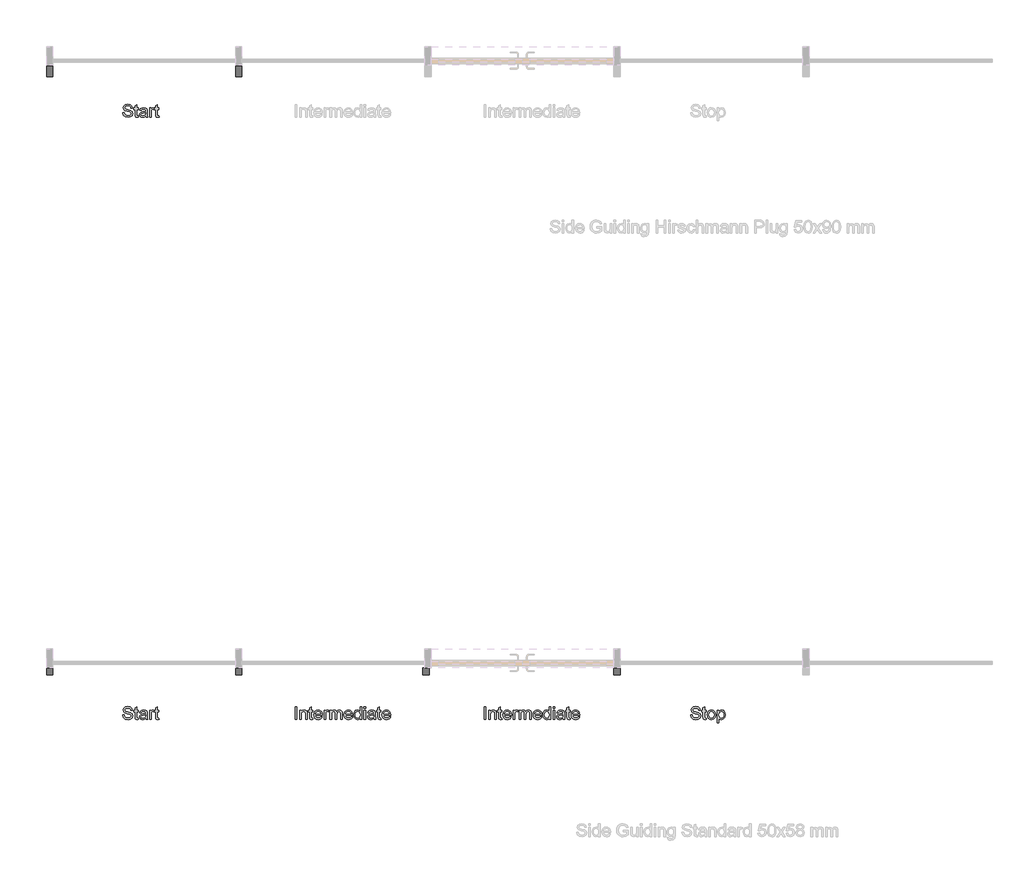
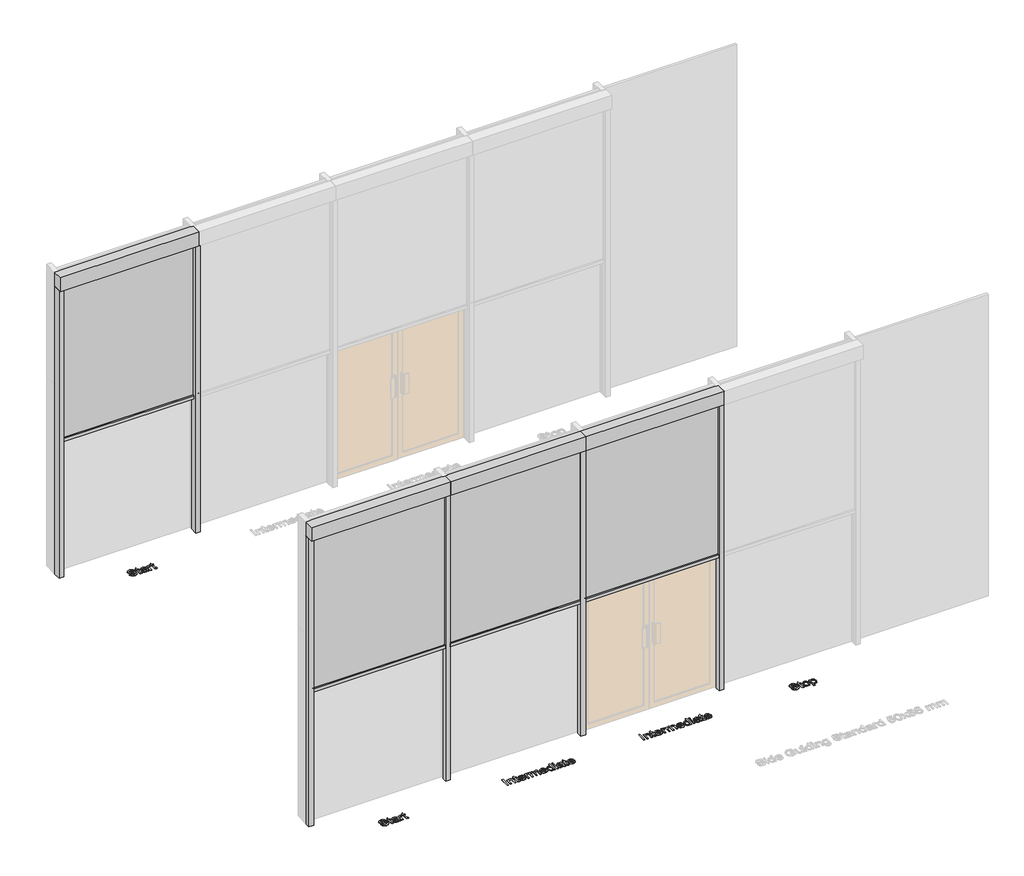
# One storey, part 6 of 8: 9 proxies.
"""IFC4 building model written with IfcOpenShell, lengths in millimetres."""

from ifc_helpers import new_model, si_unit, origin, origin_with_axes, place, context, project, spatial, polyline, outline, extrude, transform, mapped, element, save
from components import generic_models_8495b7db, generic_models_541ef5a7, generic_models_317902a9, generic_models_2005cc21

model = new_model("IFC4")

# Units and contexts
model_context = context("Model", 3, world=origin())
ifc_project = project(units=[si_unit("LENGTHUNIT", "METRE", prefix="MILLI")], contexts=[model_context])

# Site, building, storey
site = spatial("IfcSite", under=ifc_project)
building = spatial("IfcBuilding", under=site)
storey = spatial("IfcBuildingStorey", under=building, Name="Fixscreen Mini CW50 Overview Top", Elevation=0.0)

# Proxies
placement = place(None, origin())
generic_models_shape = generic_models_8495b7db(model_context)
element("IfcBuildingElementProxy", 1, Name="Renson_Fixscreen_Minimal_CW50_Middle : For curtain wall - Middle element - Access downwards - Fabric close to the window", ObjectType="Renson_Fixscreen_Minimal_CW50_Middle : For curtain wall - Middle element - Access downwards - Fabric close to the window", at=placement, inside=storey, context=model_context, shape_type="MappedRepresentation", body=[
    mapped(generic_models_shape, transform((-5413.6521319, 1107.6014385, 0.0), x_axis=(1.0, 0.0, 0.0), y_axis=(0.0, 1.0, 0.0), z_axis=(0.0, 0.0, 1.0))),
])
generic_models_2_shape = generic_models_541ef5a7(model_context)
element("IfcBuildingElementProxy", 2, Name="Renson_Fixscreen_Minimal_CW50_Middle : For curtain wall - Middle element - Access downwards - Fabric close to the window", ObjectType="Renson_Fixscreen_Minimal_CW50_Middle : For curtain wall - Middle element - Access downwards - Fabric close to the window", at=placement, inside=storey, context=model_context, shape_type="MappedRepresentation", body=[
    mapped(generic_models_2_shape, transform((-6928.6521319, 1107.6014385, 0.0), x_axis=(1.0, 0.0, 0.0), y_axis=(0.0, 1.0, 0.0), z_axis=(0.0, 0.0, 1.0))),
])
generic_models_3_shape = generic_models_317902a9(model_context)
element("IfcBuildingElementProxy", 3, Name="Renson_Fixscreen_Minimal_CW50_Start : For curtain wall - Start element - Access downwards - Fabric close to the window", ObjectType="Renson_Fixscreen_Minimal_CW50_Start : For curtain wall - Start element - Access downwards - Fabric close to the window", at=placement, inside=storey, context=model_context, shape_type="MappedRepresentation", body=[
    mapped(generic_models_3_shape, transform((-8413.6521319, 5887.7476142, 0.0), x_axis=(1.0000000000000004, 0.0, 0.0), y_axis=(0.0, 1.0000000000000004, 0.0), z_axis=(0.0, 0.0, 1.0))),
])
generic_models_4_shape = generic_models_2005cc21(model_context)
element("IfcBuildingElementProxy", 4, Name="Renson_Fixscreen_Minimal_CW50_Start : For curtain wall - Start element - Access downwards - Fabric close to the window", ObjectType="Renson_Fixscreen_Minimal_CW50_Start : For curtain wall - Start element - Access downwards - Fabric close to the window", at=placement, inside=storey, context=model_context, shape_type="MappedRepresentation", body=[
    mapped(generic_models_4_shape, transform((-8413.6521319, 1107.6014385, 0.0), x_axis=(1.0000000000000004, 0.0, 0.0), y_axis=(0.0, 1.0000000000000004, 0.0), z_axis=(0.0, 0.0, 1.0))),
])
element("IfcBuildingElementProxy", 5, Name="100mm Arial", ObjectType="100mm Arial", at=placement, inside=storey, context=model_context, shape_type="SweptSolid", body=[
    extrude(outline(polyline([(-8828.8311252, 38.4810457), (-8816.2740864, 38.4810457), (-8812.2273845, 25.9117442), (-8802.3436216, 17.9654931), (-8787.2849852, 14.936598), (-8774.1638607, 17.2297291), (-8765.6903121, 23.532774), (-8762.9066717, 31.9572716), (-8764.9913363, 39.7931581), (-8773.5261986, 45.4953291), (-8791.8099338, 50.2900577), (-8811.4916205, 56.482738), (-8822.1724611, 65.8269407), (-8825.6918655, 78.310403), (-8821.3385952, 92.5229108), (-8808.6221409, 102.5538265), (-8790.007312, 105.9751291), (-8770.1416842, 102.394411), (-8756.8979324, 91.8729859), (-8751.9192628, 76.152162), (-8764.4763015, 76.152162), (-8766.7816954, 83.644692), (-8771.5886868, 89.0525573), (-8789.5168027, 93.4180903), (-8807.4939695, 89.1016082), (-8813.1348267, 78.678285), (-8809.1371757, 69.9717445), (-8788.6338859, 62.9574611), (-8766.4138134, 56.6544163), (-8754.2614448, 46.4763477), (-8750.3496329, 32.2761027), (-8754.850056, 17.2542546), (-8767.7995022, 6.2913711), (-8786.7944759, 2.3795592), (-8809.2230149, 6.5979394), (-8823.4109971, 19.302131), (-8828.8311252, 38.4810457)])), origin_with_axes(), (0.0, 0.0, 1.0), 5.0),
    extrude(outline(polyline([(-8706.3999972, 14.4215632), (-8704.8303674, 3.5813071), (-8714.223621, 2.3795592), (-8724.745046, 4.4642239), (-8729.9934958, 9.9334029), (-8731.5140748, 24.1826988), (-8731.5140748, 65.1647531), (-8740.9318538, 65.1647531), (-8740.9318538, 77.7217918), (-8731.5140748, 77.7217918), (-8731.5140748, 95.6499077), (-8718.957036, 103.0320731), (-8718.957036, 77.7217918), (-8706.3999972, 77.7217918), (-8706.3999972, 65.1647531), (-8718.957036, 65.1647531), (-8718.957036, 24.5505808), (-8718.2948484, 18.0758577), (-8716.1488701, 15.7827266), (-8711.8691762, 14.936598), (-8706.3999972, 14.4215632)])), origin_with_axes(), (0.0, 0.0, 1.0), 5.0),
    extrude(outline(polyline([(-8646.7540631, 13.3669682), (-8658.9309571, 4.8566313), (-8672.3831754, 2.3795592), (-8682.8770093, 3.8694813), (-8690.6178596, 8.3392476), (-8695.3911285, 15.1266704), (-8696.9822181, 23.5695622), (-8694.5787224, 33.502376), (-8688.2634149, 40.7128631), (-8679.4710352, 44.8331415), (-8668.6062536, 46.7216024), (-8646.8276395, 51.0380845), (-8646.7540631, 53.8339876), (-8650.2121538, 63.1046139), (-8664.0935678, 66.7343829), (-8676.7977593, 64.3186245), (-8682.8555495, 55.746974), (-8695.4125883, 57.3166039), (-8689.9801975, 69.579337), (-8679.0418395, 76.7652987), (-8662.474887, 79.2914217), (-8647.2568351, 77.0596043), (-8638.6606592, 71.4555352), (-8634.810161, 62.9329356), (-8634.1970243, 51.9455267), (-8634.1970243, 36.3228047), (-8633.5593622, 14.5074023), (-8631.0577646, 3.9491891), (-8643.6148034, 3.9491891), (-8646.7540631, 13.3669682)]), holes=[polyline([(-8646.7540631, 38.4810457), (-8667.0120983, 34.6305475), (-8677.8155662, 32.5949338), (-8682.7083967, 29.2839958), (-8684.4251794, 24.4524789), (-8680.6850458, 17.6589248), (-8669.7098996, 14.936598), (-8657.005708, 17.9409676), (-8648.8142022, 25.2127684), (-8646.8276395, 34.9248531), (-8646.7540631, 38.4810457)])]), origin_with_axes(), (0.0, 0.0, 1.0), 5.0),
    extrude(outline(polyline([(-8616.931096, 3.9491891), (-8616.931096, 77.7217918), (-8605.9436871, 77.7217918), (-8605.9436871, 66.8079593), (-8598.1445888, 76.8634005), (-8590.2964395, 79.2914217), (-8577.6903498, 75.416398), (-8581.8842046, 64.159209), (-8590.7133725, 66.7343829), (-8597.813495, 64.2573108), (-8602.3384435, 57.3901802), (-8604.3740572, 42.7239514), (-8604.3740572, 3.9491891), (-8616.931096, 3.9491891)])), origin_with_axes(), (0.0, 0.0, 1.0), 5.0),
    extrude(outline(polyline([(-8543.1584932, 14.4215632), (-8541.5888634, 3.5813071), (-8550.982117, 2.3795592), (-8561.503542, 4.4642239), (-8566.7519918, 9.9334029), (-8568.2725708, 24.1826988), (-8568.2725708, 65.1647531), (-8577.6903498, 65.1647531), (-8577.6903498, 77.7217918), (-8568.2725708, 77.7217918), (-8568.2725708, 95.6499077), (-8555.715532, 103.0320731), (-8555.715532, 77.7217918), (-8543.1584932, 77.7217918), (-8543.1584932, 65.1647531), (-8555.715532, 65.1647531), (-8555.715532, 24.5505808), (-8555.0533444, 18.0758577), (-8552.9073661, 15.7827266), (-8548.6276722, 14.936598), (-8543.1584932, 14.4215632)])), origin_with_axes(), (0.0, 0.0, 1.0), 5.0),
])
element("IfcBuildingElementProxy", 6, Name="100mm Arial", ObjectType="100mm Arial", at=placement, inside=storey, context=model_context, shape_type="SweptSolid", body=[
    extrude(outline(polyline([(-5961.9211574, 3.9491891), (-5961.9211574, 104.4054992), (-5949.3641186, 104.4054992), (-5949.3641186, 3.9491891), (-5961.9211574, 3.9491891)])), origin_with_axes(), (0.0, 0.0, 1.0), 5.0),
    extrude(outline(polyline([(-5925.8196709, 3.9491891), (-5925.8196709, 77.7217918), (-5913.2626321, 77.7217918), (-5913.2626321, 67.421096), (-5903.6609121, 76.3238403), (-5890.5520503, 79.2914217), (-5878.6939873, 76.9001887), (-5870.6005834, 70.6216693), (-5866.8359243, 61.3878313), (-5866.1737367, 49.2477254), (-5866.1737367, 3.9491891), (-5878.7307755, 3.9491891), (-5878.7307755, 47.5554682), (-5880.177778, 58.6655045), (-5885.2913378, 64.5393537), (-5893.9120392, 66.7343829), (-5907.5359357, 61.8047642), (-5911.830958, 54.6617221), (-5913.2626321, 43.0918334), (-5913.2626321, 3.9491891), (-5925.8196709, 3.9491891)])), origin_with_axes(), (0.0, 0.0, 1.0), 5.0),
    extrude(outline(polyline([(-5822.2241011, 14.4215632), (-5820.6544712, 3.5813071), (-5830.0477248, 2.3795592), (-5840.5691499, 4.4642239), (-5845.8175997, 9.9334029), (-5847.3381786, 24.1826988), (-5847.3381786, 65.1647531), (-5856.7559577, 65.1647531), (-5856.7559577, 77.7217918), (-5847.3381786, 77.7217918), (-5847.3381786, 95.6499077), (-5834.7811398, 103.0320731), (-5834.7811398, 77.7217918), (-5822.2241011, 77.7217918), (-5822.2241011, 65.1647531), (-5834.7811398, 65.1647531), (-5834.7811398, 24.5505808), (-5834.1189522, 18.0758577), (-5831.9729739, 15.7827266), (-5827.69328, 14.936598), (-5822.2241011, 14.4215632)])), origin_with_axes(), (0.0, 0.0, 1.0), 5.0),
    extrude(outline(polyline([(-5758.0164302, 25.9240069), (-5745.7046461, 24.3543771), (-5750.1406898, 15.0776194), (-5757.2193525, 8.1430438), (-5766.7812187, 3.8204304), (-5778.6668728, 2.3795592), (-5793.4005467, 4.8658284), (-5804.7374435, 12.3246358), (-5811.9663248, 24.2716036), (-5814.3759518, 40.2223538), (-5811.9417993, 56.7095986), (-5804.6393417, 69.0397768), (-5793.455729, 76.7285105), (-5779.3781113, 79.2914217), (-5765.7388864, 76.7346418), (-5754.8403823, 69.0643022), (-5747.6942745, 56.7586495), (-5745.3122386, 40.2959302), (-5745.385815, 36.9114159), (-5801.8189131, 36.9114159), (-5799.6453436, 27.5120309), (-5794.5961632, 20.6019807), (-5787.309034, 16.3529437), (-5778.4216182, 14.936598), (-5766.1098341, 17.5608229), (-5758.0164302, 25.9240069)]), holes=[polyline([(-5801.8189131, 49.4684546), (-5757.8692774, 49.4684546), (-5762.896998, 60.848271), (-5770.2178497, 65.2628549), (-5779.4271623, 66.7343829), (-5794.8904688, 62.0377561), (-5799.7557082, 56.5471173), (-5801.8189131, 49.4684546)])]), origin_with_axes(), (0.0, 0.0, 1.0), 5.0),
    extrude(outline(polyline([(-5732.7551998, 3.9491891), (-5732.7551998, 77.7217918), (-5721.7677909, 77.7217918), (-5721.7677909, 66.8079593), (-5713.9686926, 76.8634005), (-5706.1205434, 79.2914217), (-5693.5144537, 75.416398), (-5697.7083084, 64.159209), (-5706.5374763, 66.7343829), (-5713.6375988, 64.2573108), (-5718.1625474, 57.3901802), (-5720.1981611, 42.7239514), (-5720.1981611, 3.9491891), (-5732.7551998, 3.9491891)])), origin_with_axes(), (0.0, 0.0, 1.0), 5.0),
    extrude(outline(polyline([(-5685.6663044, 3.9491891), (-5685.6663044, 77.7217918), (-5673.1092657, 77.7217918), (-5673.1092657, 65.581686), (-5664.4763015, 75.5267626), (-5652.1890429, 79.2914217), (-5639.6074786, 75.4531862), (-5632.6912971, 64.6987692), (-5622.8933733, 75.6432586), (-5610.5202756, 79.2914217), (-5601.0810367, 77.7739085), (-5594.1004758, 73.2213688), (-5589.7870594, 65.5111753), (-5588.349254, 54.5207007), (-5588.349254, 3.9491891), (-5600.9062928, 3.9491891), (-5600.9062928, 49.1250981), (-5602.0712524, 59.609735), (-5606.2896326, 64.7723456), (-5613.4633315, 66.7343829), (-5625.8119038, 61.7066623), (-5629.4999208, 55.1644942), (-5630.7292598, 45.5934309), (-5630.7292598, 3.9491891), (-5643.2862986, 3.9491891), (-5643.2862986, 50.5230497), (-5646.1925664, 62.687681), (-5655.72071, 66.7343829), (-5665.0158618, 64.0365816), (-5671.1962793, 56.1393815), (-5673.1092657, 41.1543215), (-5673.1092657, 3.9491891), (-5685.6663044, 3.9491891)])), origin_with_axes(), (0.0, 0.0, 1.0), 5.0),
    extrude(outline(polyline([(-5517.8630637, 25.9240069), (-5505.5512796, 24.3543771), (-5509.9873233, 15.0776194), (-5517.0659861, 8.1430438), (-5526.6278522, 3.8204304), (-5538.5135064, 2.3795592), (-5553.2471803, 4.8658284), (-5564.5840771, 12.3246358), (-5571.8129583, 24.2716036), (-5574.2225854, 40.2223538), (-5571.7884328, 56.7095986), (-5564.4859752, 69.0397768), (-5553.3023626, 76.7285105), (-5539.2247449, 79.2914217), (-5525.5855199, 76.7346418), (-5514.6870158, 69.0643022), (-5507.5409081, 56.7586495), (-5505.1588721, 40.2959302), (-5505.2324485, 36.9114159), (-5561.6655466, 36.9114159), (-5559.4919771, 27.5120309), (-5554.4427968, 20.6019807), (-5547.1556676, 16.3529437), (-5538.2682517, 14.936598), (-5525.9564676, 17.5608229), (-5517.8630637, 25.9240069)]), holes=[polyline([(-5561.6655466, 49.4684546), (-5517.7159109, 49.4684546), (-5522.7436315, 60.848271), (-5530.0644832, 65.2628549), (-5539.2737958, 66.7343829), (-5554.7371024, 62.0377561), (-5559.6023417, 56.5471173), (-5561.6655466, 49.4684546)])]), origin_with_axes(), (0.0, 0.0, 1.0), 5.0),
    extrude(outline(polyline([(-5447.0825678, 3.9491891), (-5447.0825678, 15.7949893), (-5455.3905696, 5.7334168), (-5466.8746192, 2.3795592), (-5482.4237648, 7.2356016), (-5493.4111738, 20.7859217), (-5497.3107229, 40.7619141), (-5493.7177421, 60.7501691), (-5482.9510624, 74.5089558), (-5466.9236701, 79.2914217), (-5455.34765, 75.8701191), (-5447.0825678, 66.9796376), (-5447.0825678, 104.4054992), (-5434.5255291, 104.4054992), (-5434.5255291, 3.9491891), (-5447.0825678, 3.9491891)]), holes=[polyline([(-5484.7536841, 40.810965), (-5483.3373385, 29.4526084), (-5479.0883014, 21.3745329), (-5472.9140153, 16.5460817), (-5465.7219223, 14.936598), (-5458.5328949, 16.4725053), (-5452.5149586, 21.0802273), (-5448.4406655, 28.8456031), (-5447.0825678, 39.8544718), (-5448.465191, 51.8903444), (-5452.6130605, 60.2351343), (-5458.784281, 65.1095708), (-5466.2369571, 66.7343829), (-5473.5026265, 65.1739501), (-5479.4561834, 60.4926517), (-5483.429309, 52.4513645), (-5484.7536841, 40.810965)])]), origin_with_axes(), (0.0, 0.0, 1.0), 5.0),
    extrude(outline(polyline([(-5415.6899709, 91.8484605), (-5415.6899709, 104.4054992), (-5403.1329321, 104.4054992), (-5403.1329321, 91.8484605), (-5415.6899709, 91.8484605)])), origin_with_axes(), (0.0, 0.0, 1.0), 5.0),
    extrude(outline(polyline([(-5415.6899709, 3.9491891), (-5415.6899709, 77.7217918), (-5403.1329321, 77.7217918), (-5403.1329321, 3.9491891), (-5415.6899709, 3.9491891)])), origin_with_axes(), (0.0, 0.0, 1.0), 5.0),
    extrude(outline(polyline([(-5337.2084786, 13.3669682), (-5349.3853727, 4.8566313), (-5362.8375909, 2.3795592), (-5373.3314249, 3.8694813), (-5381.0722752, 8.3392476), (-5385.8455441, 15.1266704), (-5387.4366337, 23.5695622), (-5385.033138, 33.502376), (-5378.7178304, 40.7128631), (-5369.9254507, 44.8331415), (-5359.0606691, 46.7216024), (-5337.282055, 51.0380845), (-5337.2084786, 53.8339876), (-5340.6665694, 63.1046139), (-5354.5479833, 66.7343829), (-5367.2521749, 64.3186245), (-5373.3099651, 55.746974), (-5385.8670038, 57.3166039), (-5380.434613, 69.579337), (-5369.4962551, 76.7652987), (-5352.9293025, 79.2914217), (-5337.7112507, 77.0596043), (-5329.1150747, 71.4555352), (-5325.2645765, 62.9329356), (-5324.6514398, 51.9455267), (-5324.6514398, 36.3228047), (-5324.0137777, 14.5074023), (-5321.5121802, 3.9491891), (-5334.0692189, 3.9491891), (-5337.2084786, 13.3669682)]), holes=[polyline([(-5337.2084786, 38.4810457), (-5357.4665138, 34.6305475), (-5368.2699817, 32.5949338), (-5373.1628123, 29.2839958), (-5374.8795949, 24.4524789), (-5371.1394613, 17.6589248), (-5360.1643151, 14.936598), (-5347.4601235, 17.9409676), (-5339.2686178, 25.2127684), (-5337.282055, 34.9248531), (-5337.2084786, 38.4810457)])]), origin_with_axes(), (0.0, 0.0, 1.0), 5.0),
    extrude(outline(polyline([(-5280.7018042, 14.4215632), (-5279.1321743, 3.5813071), (-5288.5254279, 2.3795592), (-5299.046853, 4.4642239), (-5304.2953028, 9.9334029), (-5305.8158817, 24.1826988), (-5305.8158817, 65.1647531), (-5315.2336608, 65.1647531), (-5315.2336608, 77.7217918), (-5305.8158817, 77.7217918), (-5305.8158817, 95.6499077), (-5293.2588429, 103.0320731), (-5293.2588429, 77.7217918), (-5280.7018042, 77.7217918), (-5280.7018042, 65.1647531), (-5293.2588429, 65.1647531), (-5293.2588429, 24.5505808), (-5292.5966553, 18.0758577), (-5290.450677, 15.7827266), (-5286.1709831, 14.936598), (-5280.7018042, 14.4215632)])), origin_with_axes(), (0.0, 0.0, 1.0), 5.0),
    extrude(outline(polyline([(-5216.4941333, 25.9240069), (-5204.1823492, 24.3543771), (-5208.6183929, 15.0776194), (-5215.6970556, 8.1430438), (-5225.2589218, 3.8204304), (-5237.1445759, 2.3795592), (-5251.8782498, 4.8658284), (-5263.2151466, 12.3246358), (-5270.4440279, 24.2716036), (-5272.8536549, 40.2223538), (-5270.4195024, 56.7095986), (-5263.1170448, 69.0397768), (-5251.9334321, 76.7285105), (-5237.8558144, 79.2914217), (-5224.2165895, 76.7346418), (-5213.3180854, 69.0643022), (-5206.1719776, 56.7586495), (-5203.7899417, 40.2959302), (-5203.8635181, 36.9114159), (-5260.2966162, 36.9114159), (-5258.1230467, 27.5120309), (-5253.0738663, 20.6019807), (-5245.7867371, 16.3529437), (-5236.8993213, 14.936598), (-5224.5875372, 17.5608229), (-5216.4941333, 25.9240069)]), holes=[polyline([(-5260.2966162, 49.4684546), (-5216.3469805, 49.4684546), (-5221.3747011, 60.848271), (-5228.6955528, 65.2628549), (-5237.9048654, 66.7343829), (-5253.3681719, 62.0377561), (-5258.2334113, 56.5471173), (-5260.2966162, 49.4684546)])]), origin_with_axes(), (0.0, 0.0, 1.0), 5.0),
])
element("IfcBuildingElementProxy", 7, Name="100mm Arial", ObjectType="100mm Arial", at=placement, inside=storey, context=model_context, shape_type="SweptSolid", body=[
    extrude(outline(polyline([(-4324.1222357, 38.4810457), (-4311.5651969, 38.4810457), (-4307.518495, 25.9117442), (-4297.634732, 17.9654931), (-4282.5760957, 14.936598), (-4269.4549712, 17.2297291), (-4260.9814226, 23.532774), (-4258.1977821, 31.9572716), (-4260.2824468, 39.7931581), (-4268.8173091, 45.4953291), (-4287.1010442, 50.2900577), (-4306.782731, 56.482738), (-4317.4635716, 65.8269407), (-4320.982976, 78.310403), (-4316.6297057, 92.5229108), (-4303.9132514, 102.5538265), (-4285.2984224, 105.9751291), (-4265.4327947, 102.394411), (-4252.1890429, 91.8729859), (-4247.2103732, 76.152162), (-4259.767412, 76.152162), (-4262.0728058, 83.644692), (-4266.8797972, 89.0525573), (-4284.8079131, 93.4180903), (-4302.78508, 89.1016082), (-4308.4259372, 78.678285), (-4304.4282862, 69.9717445), (-4283.9249963, 62.9574611), (-4261.7049238, 56.6544163), (-4249.5525552, 46.4763477), (-4245.6407434, 32.2761027), (-4250.1411664, 17.2542546), (-4263.0906127, 6.2913711), (-4282.0855864, 2.3795592), (-4304.5141253, 6.5979394), (-4318.7021076, 19.302131), (-4324.1222357, 38.4810457)])), origin_with_axes(), (0.0, 0.0, 1.0), 5.0),
    extrude(outline(polyline([(-4201.6911077, 14.4215632), (-4200.1214778, 3.5813071), (-4209.5147314, 2.3795592), (-4220.0361565, 4.4642239), (-4225.2846063, 9.9334029), (-4226.8051852, 24.1826988), (-4226.8051852, 65.1647531), (-4236.2229643, 65.1647531), (-4236.2229643, 77.7217918), (-4226.8051852, 77.7217918), (-4226.8051852, 95.6499077), (-4214.2481464, 103.0320731), (-4214.2481464, 77.7217918), (-4201.6911077, 77.7217918), (-4201.6911077, 65.1647531), (-4214.2481464, 65.1647531), (-4214.2481464, 24.5505808), (-4213.5859589, 18.0758577), (-4211.4399805, 15.7827266), (-4207.1602867, 14.936598), (-4201.6911077, 14.4215632)])), origin_with_axes(), (0.0, 0.0, 1.0), 5.0),
    extrude(outline(polyline([(-4192.2733286, 40.8354905), (-4189.5571332, 58.6225849), (-4181.408547, 71.1244414), (-4171.3408431, 77.2496766), (-4159.2865764, 79.2914217), (-4146.0949412, 76.8051525), (-4135.5581877, 69.3463451), (-4128.6512032, 57.5036105), (-4126.3488751, 41.8655601), (-4130.4201025, 19.5228602), (-4142.2781655, 6.8799823), (-4159.2865764, 2.3795592), (-4172.6376271, 4.8566313), (-4183.1621179, 12.2878476), (-4189.9955259, 24.3789025), (-4192.2733286, 40.8354905)]), holes=[polyline([(-4179.7162898, 40.8600159), (-4178.263156, 29.495528), (-4173.9037543, 21.3990584), (-4167.3431921, 16.5522131), (-4159.2865764, 14.936598), (-4151.2667489, 16.5614102), (-4144.7184494, 21.4358466), (-4140.3590477, 29.6396151), (-4138.9059138, 41.2524234), (-4140.3682448, 52.2858176), (-4144.7552376, 60.2719225), (-4151.3127341, 65.1187678), (-4159.2865764, 66.7343829), (-4167.3431921, 65.1248992), (-4173.9037543, 60.296448), (-4178.263156, 52.2183725), (-4179.7162898, 40.8600159)])]), origin_with_axes(), (0.0, 0.0, 1.0), 5.0),
    extrude(outline(polyline([(-4112.2222065, -24.3041481), (-4112.2222065, 77.7217918), (-4099.6651677, 77.7217918), (-4099.6651677, 65.4100077), (-4090.9831526, 75.8210682), (-4079.2599797, 79.2914217), (-4063.342952, 74.4353794), (-4052.9441543, 60.7501691), (-4049.4370126, 41.3995762), (-4053.3978754, 21.0557019), (-4064.9003191, 7.1988134), (-4080.7805586, 2.3795592), (-4091.7066539, 5.6046581), (-4099.6651677, 13.7593756), (-4099.6651677, -24.3041481), (-4112.2222065, -24.3041481)]), holes=[polyline([(-4099.6651677, 40.2468793), (-4098.30707, 28.9896902), (-4094.2327769, 21.1170155), (-4088.2209719, 16.4817024), (-4081.0503387, 14.936598), (-4073.7632095, 16.5368847), (-4067.5981204, 21.3377447), (-4063.3950686, 29.4985936), (-4061.9940514, 41.178847), (-4063.3613461, 52.3747224), (-4067.4632304, 60.3577617), (-4073.4658383, 65.1402276), (-4080.5353039, 66.7343829), (-4087.6323608, 65.0390601), (-4093.8648949, 59.9530915), (-4098.2150995, 51.6358927), (-4099.6651677, 40.2468793)])]), origin_with_axes(), (0.0, 0.0, 1.0), 5.0),
])
element("IfcBuildingElementProxy", 8, Name="100mm Arial", ObjectType="100mm Arial", at=placement, inside=storey, context=model_context, shape_type="SweptSolid", body=[
    extrude(outline(polyline([(-7461.9211574, 3.9491891), (-7461.9211574, 104.4054992), (-7449.3641186, 104.4054992), (-7449.3641186, 3.9491891), (-7461.9211574, 3.9491891)])), origin_with_axes(), (0.0, 0.0, 1.0), 5.0),
    extrude(outline(polyline([(-7425.8196709, 3.9491891), (-7425.8196709, 77.7217918), (-7413.2626321, 77.7217918), (-7413.2626321, 67.421096), (-7403.6609121, 76.3238403), (-7390.5520503, 79.2914217), (-7378.6939873, 76.9001887), (-7370.6005834, 70.6216693), (-7366.8359243, 61.3878313), (-7366.1737367, 49.2477254), (-7366.1737367, 3.9491891), (-7378.7307755, 3.9491891), (-7378.7307755, 47.5554682), (-7380.177778, 58.6655045), (-7385.2913378, 64.5393537), (-7393.9120392, 66.7343829), (-7407.5359357, 61.8047642), (-7411.830958, 54.6617221), (-7413.2626321, 43.0918334), (-7413.2626321, 3.9491891), (-7425.8196709, 3.9491891)])), origin_with_axes(), (0.0, 0.0, 1.0), 5.0),
    extrude(outline(polyline([(-7322.2241011, 14.4215632), (-7320.6544712, 3.5813071), (-7330.0477248, 2.3795592), (-7340.5691499, 4.4642239), (-7345.8175997, 9.9334029), (-7347.3381786, 24.1826988), (-7347.3381786, 65.1647531), (-7356.7559577, 65.1647531), (-7356.7559577, 77.7217918), (-7347.3381786, 77.7217918), (-7347.3381786, 95.6499077), (-7334.7811398, 103.0320731), (-7334.7811398, 77.7217918), (-7322.2241011, 77.7217918), (-7322.2241011, 65.1647531), (-7334.7811398, 65.1647531), (-7334.7811398, 24.5505808), (-7334.1189522, 18.0758577), (-7331.9729739, 15.7827266), (-7327.69328, 14.936598), (-7322.2241011, 14.4215632)])), origin_with_axes(), (0.0, 0.0, 1.0), 5.0),
    extrude(outline(polyline([(-7258.0164302, 25.9240069), (-7245.7046461, 24.3543771), (-7250.1406898, 15.0776194), (-7257.2193525, 8.1430438), (-7266.7812187, 3.8204304), (-7278.6668728, 2.3795592), (-7293.4005467, 4.8658284), (-7304.7374435, 12.3246358), (-7311.9663248, 24.2716036), (-7314.3759518, 40.2223538), (-7311.9417993, 56.7095986), (-7304.6393417, 69.0397768), (-7293.455729, 76.7285105), (-7279.3781113, 79.2914217), (-7265.7388864, 76.7346418), (-7254.8403823, 69.0643022), (-7247.6942745, 56.7586495), (-7245.3122386, 40.2959302), (-7245.385815, 36.9114159), (-7301.8189131, 36.9114159), (-7299.6453436, 27.5120309), (-7294.5961632, 20.6019807), (-7287.309034, 16.3529437), (-7278.4216182, 14.936598), (-7266.1098341, 17.5608229), (-7258.0164302, 25.9240069)]), holes=[polyline([(-7301.8189131, 49.4684546), (-7257.8692774, 49.4684546), (-7262.896998, 60.848271), (-7270.2178497, 65.2628549), (-7279.4271623, 66.7343829), (-7294.8904688, 62.0377561), (-7299.7557082, 56.5471173), (-7301.8189131, 49.4684546)])]), origin_with_axes(), (0.0, 0.0, 1.0), 5.0),
    extrude(outline(polyline([(-7232.7551998, 3.9491891), (-7232.7551998, 77.7217918), (-7221.7677909, 77.7217918), (-7221.7677909, 66.8079593), (-7213.9686926, 76.8634005), (-7206.1205434, 79.2914217), (-7193.5144537, 75.416398), (-7197.7083084, 64.159209), (-7206.5374763, 66.7343829), (-7213.6375988, 64.2573108), (-7218.1625474, 57.3901802), (-7220.1981611, 42.7239514), (-7220.1981611, 3.9491891), (-7232.7551998, 3.9491891)])), origin_with_axes(), (0.0, 0.0, 1.0), 5.0),
    extrude(outline(polyline([(-7185.6663044, 3.9491891), (-7185.6663044, 77.7217918), (-7173.1092657, 77.7217918), (-7173.1092657, 65.581686), (-7164.4763015, 75.5267626), (-7152.1890429, 79.2914217), (-7139.6074786, 75.4531862), (-7132.6912971, 64.6987692), (-7122.8933733, 75.6432586), (-7110.5202756, 79.2914217), (-7101.0810367, 77.7739085), (-7094.1004758, 73.2213688), (-7089.7870594, 65.5111753), (-7088.349254, 54.5207007), (-7088.349254, 3.9491891), (-7100.9062928, 3.9491891), (-7100.9062928, 49.1250981), (-7102.0712524, 59.609735), (-7106.2896326, 64.7723456), (-7113.4633315, 66.7343829), (-7125.8119038, 61.7066623), (-7129.4999208, 55.1644942), (-7130.7292598, 45.5934309), (-7130.7292598, 3.9491891), (-7143.2862986, 3.9491891), (-7143.2862986, 50.5230497), (-7146.1925664, 62.687681), (-7155.72071, 66.7343829), (-7165.0158618, 64.0365816), (-7171.1962793, 56.1393815), (-7173.1092657, 41.1543215), (-7173.1092657, 3.9491891), (-7185.6663044, 3.9491891)])), origin_with_axes(), (0.0, 0.0, 1.0), 5.0),
    extrude(outline(polyline([(-7017.8630637, 25.9240069), (-7005.5512796, 24.3543771), (-7009.9873233, 15.0776194), (-7017.0659861, 8.1430438), (-7026.6278522, 3.8204304), (-7038.5135064, 2.3795592), (-7053.2471803, 4.8658284), (-7064.5840771, 12.3246358), (-7071.8129583, 24.2716036), (-7074.2225854, 40.2223538), (-7071.7884328, 56.7095986), (-7064.4859752, 69.0397768), (-7053.3023626, 76.7285105), (-7039.2247449, 79.2914217), (-7025.5855199, 76.7346418), (-7014.6870158, 69.0643022), (-7007.5409081, 56.7586495), (-7005.1588721, 40.2959302), (-7005.2324485, 36.9114159), (-7061.6655466, 36.9114159), (-7059.4919771, 27.5120309), (-7054.4427968, 20.6019807), (-7047.1556676, 16.3529437), (-7038.2682517, 14.936598), (-7025.9564676, 17.5608229), (-7017.8630637, 25.9240069)]), holes=[polyline([(-7061.6655466, 49.4684546), (-7017.7159109, 49.4684546), (-7022.7436315, 60.848271), (-7030.0644832, 65.2628549), (-7039.2737958, 66.7343829), (-7054.7371024, 62.0377561), (-7059.6023417, 56.5471173), (-7061.6655466, 49.4684546)])]), origin_with_axes(), (0.0, 0.0, 1.0), 5.0),
    extrude(outline(polyline([(-6947.0825678, 3.9491891), (-6947.0825678, 15.7949893), (-6955.3905696, 5.7334168), (-6966.8746192, 2.3795592), (-6982.4237648, 7.2356016), (-6993.4111738, 20.7859217), (-6997.3107229, 40.7619141), (-6993.7177421, 60.7501691), (-6982.9510624, 74.5089558), (-6966.9236701, 79.2914217), (-6955.34765, 75.8701191), (-6947.0825678, 66.9796376), (-6947.0825678, 104.4054992), (-6934.5255291, 104.4054992), (-6934.5255291, 3.9491891), (-6947.0825678, 3.9491891)]), holes=[polyline([(-6984.7536841, 40.810965), (-6983.3373385, 29.4526084), (-6979.0883014, 21.3745329), (-6972.9140153, 16.5460817), (-6965.7219223, 14.936598), (-6958.5328949, 16.4725053), (-6952.5149586, 21.0802273), (-6948.4406655, 28.8456031), (-6947.0825678, 39.8544718), (-6948.465191, 51.8903444), (-6952.6130605, 60.2351343), (-6958.784281, 65.1095708), (-6966.2369571, 66.7343829), (-6973.5026265, 65.1739501), (-6979.4561834, 60.4926517), (-6983.429309, 52.4513645), (-6984.7536841, 40.810965)])]), origin_with_axes(), (0.0, 0.0, 1.0), 5.0),
    extrude(outline(polyline([(-6915.6899709, 91.8484605), (-6915.6899709, 104.4054992), (-6903.1329321, 104.4054992), (-6903.1329321, 91.8484605), (-6915.6899709, 91.8484605)])), origin_with_axes(), (0.0, 0.0, 1.0), 5.0),
    extrude(outline(polyline([(-6915.6899709, 3.9491891), (-6915.6899709, 77.7217918), (-6903.1329321, 77.7217918), (-6903.1329321, 3.9491891), (-6915.6899709, 3.9491891)])), origin_with_axes(), (0.0, 0.0, 1.0), 5.0),
    extrude(outline(polyline([(-6837.2084786, 13.3669682), (-6849.3853727, 4.8566313), (-6862.8375909, 2.3795592), (-6873.3314249, 3.8694813), (-6881.0722752, 8.3392476), (-6885.8455441, 15.1266704), (-6887.4366337, 23.5695622), (-6885.033138, 33.502376), (-6878.7178304, 40.7128631), (-6869.9254507, 44.8331415), (-6859.0606691, 46.7216024), (-6837.282055, 51.0380845), (-6837.2084786, 53.8339876), (-6840.6665694, 63.1046139), (-6854.5479833, 66.7343829), (-6867.2521749, 64.3186245), (-6873.3099651, 55.746974), (-6885.8670038, 57.3166039), (-6880.434613, 69.579337), (-6869.4962551, 76.7652987), (-6852.9293025, 79.2914217), (-6837.7112507, 77.0596043), (-6829.1150747, 71.4555352), (-6825.2645765, 62.9329356), (-6824.6514398, 51.9455267), (-6824.6514398, 36.3228047), (-6824.0137777, 14.5074023), (-6821.5121802, 3.9491891), (-6834.0692189, 3.9491891), (-6837.2084786, 13.3669682)]), holes=[polyline([(-6837.2084786, 38.4810457), (-6857.4665138, 34.6305475), (-6868.2699817, 32.5949338), (-6873.1628123, 29.2839958), (-6874.8795949, 24.4524789), (-6871.1394613, 17.6589248), (-6860.1643151, 14.936598), (-6847.4601235, 17.9409676), (-6839.2686178, 25.2127684), (-6837.282055, 34.9248531), (-6837.2084786, 38.4810457)])]), origin_with_axes(), (0.0, 0.0, 1.0), 5.0),
    extrude(outline(polyline([(-6780.7018042, 14.4215632), (-6779.1321743, 3.5813071), (-6788.5254279, 2.3795592), (-6799.046853, 4.4642239), (-6804.2953028, 9.9334029), (-6805.8158817, 24.1826988), (-6805.8158817, 65.1647531), (-6815.2336608, 65.1647531), (-6815.2336608, 77.7217918), (-6805.8158817, 77.7217918), (-6805.8158817, 95.6499077), (-6793.2588429, 103.0320731), (-6793.2588429, 77.7217918), (-6780.7018042, 77.7217918), (-6780.7018042, 65.1647531), (-6793.2588429, 65.1647531), (-6793.2588429, 24.5505808), (-6792.5966553, 18.0758577), (-6790.450677, 15.7827266), (-6786.1709831, 14.936598), (-6780.7018042, 14.4215632)])), origin_with_axes(), (0.0, 0.0, 1.0), 5.0),
    extrude(outline(polyline([(-6716.4941333, 25.9240069), (-6704.1823492, 24.3543771), (-6708.6183929, 15.0776194), (-6715.6970556, 8.1430438), (-6725.2589218, 3.8204304), (-6737.1445759, 2.3795592), (-6751.8782498, 4.8658284), (-6763.2151466, 12.3246358), (-6770.4440279, 24.2716036), (-6772.8536549, 40.2223538), (-6770.4195024, 56.7095986), (-6763.1170448, 69.0397768), (-6751.9334321, 76.7285105), (-6737.8558144, 79.2914217), (-6724.2165895, 76.7346418), (-6713.3180854, 69.0643022), (-6706.1719776, 56.7586495), (-6703.7899417, 40.2959302), (-6703.8635181, 36.9114159), (-6760.2966162, 36.9114159), (-6758.1230467, 27.5120309), (-6753.0738663, 20.6019807), (-6745.7867371, 16.3529437), (-6736.8993213, 14.936598), (-6724.5875372, 17.5608229), (-6716.4941333, 25.9240069)]), holes=[polyline([(-6760.2966162, 49.4684546), (-6716.3469805, 49.4684546), (-6721.3747011, 60.848271), (-6728.6955528, 65.2628549), (-6737.9048654, 66.7343829), (-6753.3681719, 62.0377561), (-6758.2334113, 56.5471173), (-6760.2966162, 49.4684546)])]), origin_with_axes(), (0.0, 0.0, 1.0), 5.0),
])
element("IfcBuildingElementProxy", 9, Name="100mm Arial", ObjectType="100mm Arial", at=placement, inside=storey, context=model_context, shape_type="SweptSolid", body=[
    extrude(outline(polyline([(-8828.8311252, 4818.6272214), (-8816.2740864, 4818.6272214), (-8812.2273845, 4806.0579199), (-8802.3436216, 4798.1116688), (-8787.2849852, 4795.0827737), (-8774.1638607, 4797.3759048), (-8765.6903121, 4803.6789496), (-8762.9066717, 4812.1034473), (-8764.9913363, 4819.9393338), (-8773.5261986, 4825.6415047), (-8791.8099338, 4830.4362334), (-8811.4916205, 4836.6289137), (-8822.1724611, 4845.9731163), (-8825.6918655, 4858.4565787), (-8821.3385952, 4872.6690864), (-8808.6221409, 4882.7000022), (-8790.007312, 4886.1213047), (-8770.1416842, 4882.5405867), (-8756.8979324, 4872.0191616), (-8751.9192628, 4856.2983377), (-8764.4763015, 4856.2983377), (-8766.7816954, 4863.7908676), (-8771.5886868, 4869.198733), (-8789.5168027, 4873.564266), (-8807.4939695, 4869.2477839), (-8813.1348267, 4858.8244607), (-8809.1371757, 4850.1179201), (-8788.6338859, 4843.1036368), (-8766.4138134, 4836.8005919), (-8754.2614448, 4826.6225234), (-8750.3496329, 4812.4222784), (-8754.850056, 4797.4004302), (-8767.7995022, 4786.4375468), (-8786.7944759, 4782.5257349), (-8809.2230149, 4786.7441151), (-8823.4109971, 4799.4483067), (-8828.8311252, 4818.6272214)])), origin_with_axes(), (0.0, 0.0, 1.0), 5.0),
    extrude(outline(polyline([(-8706.3999972, 4794.5677389), (-8704.8303674, 4783.7274827), (-8714.223621, 4782.5257349), (-8724.745046, 4784.6103995), (-8729.9934958, 4790.0795785), (-8731.5140748, 4804.3288745), (-8731.5140748, 4845.3109287), (-8740.9318538, 4845.3109287), (-8740.9318538, 4857.8679675), (-8731.5140748, 4857.8679675), (-8731.5140748, 4875.7960834), (-8718.957036, 4883.1782488), (-8718.957036, 4857.8679675), (-8706.3999972, 4857.8679675), (-8706.3999972, 4845.3109287), (-8718.957036, 4845.3109287), (-8718.957036, 4804.6967565), (-8718.2948484, 4798.2220334), (-8716.1488701, 4795.9289023), (-8711.8691762, 4795.0827737), (-8706.3999972, 4794.5677389)])), origin_with_axes(), (0.0, 0.0, 1.0), 5.0),
    extrude(outline(polyline([(-8646.7540631, 4793.5131438), (-8658.9309571, 4785.002807), (-8672.3831754, 4782.5257349), (-8682.8770093, 4784.015657), (-8690.6178596, 4788.4854232), (-8695.3911285, 4795.272846), (-8696.9822181, 4803.7157378), (-8694.5787224, 4813.6485517), (-8688.2634149, 4820.8590388), (-8679.4710352, 4824.9793171), (-8668.6062536, 4826.867778), (-8646.8276395, 4831.1842601), (-8646.7540631, 4833.9801633), (-8650.2121538, 4843.2507896), (-8664.0935678, 4846.8805586), (-8676.7977593, 4844.4648002), (-8682.8555495, 4835.8931497), (-8695.4125883, 4837.4627795), (-8689.9801975, 4849.7255127), (-8679.0418395, 4856.9114743), (-8662.474887, 4859.4375974), (-8647.2568351, 4857.2057799), (-8638.6606592, 4851.6017109), (-8634.810161, 4843.0791113), (-8634.1970243, 4832.0917024), (-8634.1970243, 4816.4689803), (-8633.5593622, 4794.653578), (-8631.0577646, 4784.0953647), (-8643.6148034, 4784.0953647), (-8646.7540631, 4793.5131438)]), holes=[polyline([(-8646.7540631, 4818.6272214), (-8667.0120983, 4814.7767231), (-8677.8155662, 4812.7411094), (-8682.7083967, 4809.4301715), (-8684.4251794, 4804.5986546), (-8680.6850458, 4797.8051004), (-8669.7098996, 4795.0827737), (-8657.005708, 4798.0871433), (-8648.8142022, 4805.3589441), (-8646.8276395, 4815.0710287), (-8646.7540631, 4818.6272214)])]), origin_with_axes(), (0.0, 0.0, 1.0), 5.0),
    extrude(outline(polyline([(-8616.931096, 4784.0953647), (-8616.931096, 4857.8679675), (-8605.9436871, 4857.8679675), (-8605.9436871, 4846.954135), (-8598.1445888, 4857.0095762), (-8590.2964395, 4859.4375974), (-8577.6903498, 4855.5625737), (-8581.8842046, 4844.3053846), (-8590.7133725, 4846.8805586), (-8597.813495, 4844.4034865), (-8602.3384435, 4837.5363559), (-8604.3740572, 4822.870127), (-8604.3740572, 4784.0953647), (-8616.931096, 4784.0953647)])), origin_with_axes(), (0.0, 0.0, 1.0), 5.0),
    extrude(outline(polyline([(-8543.1584932, 4794.5677389), (-8541.5888634, 4783.7274827), (-8550.982117, 4782.5257349), (-8561.503542, 4784.6103995), (-8566.7519918, 4790.0795785), (-8568.2725708, 4804.3288745), (-8568.2725708, 4845.3109287), (-8577.6903498, 4845.3109287), (-8577.6903498, 4857.8679675), (-8568.2725708, 4857.8679675), (-8568.2725708, 4875.7960834), (-8555.715532, 4883.1782488), (-8555.715532, 4857.8679675), (-8543.1584932, 4857.8679675), (-8543.1584932, 4845.3109287), (-8555.715532, 4845.3109287), (-8555.715532, 4804.6967565), (-8555.0533444, 4798.2220334), (-8552.9073661, 4795.9289023), (-8548.6276722, 4795.0827737), (-8543.1584932, 4794.5677389)])), origin_with_axes(), (0.0, 0.0, 1.0), 5.0),
])

save(model, "model.ifc")
